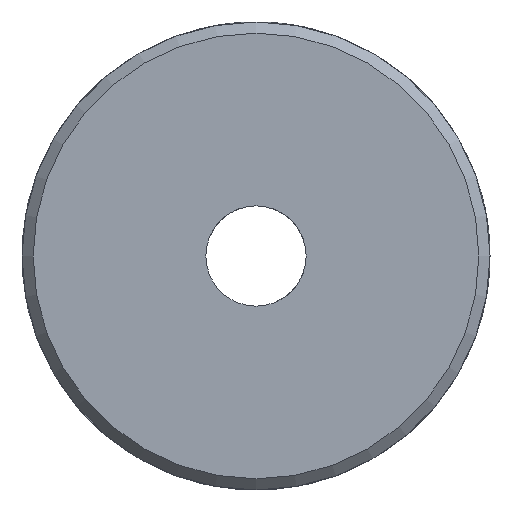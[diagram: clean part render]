
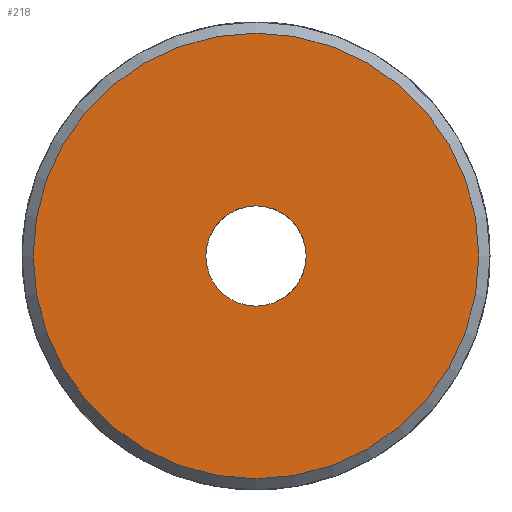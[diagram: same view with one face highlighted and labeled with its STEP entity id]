
A CAD part, left-side view. The second image highlights one B-rep face of the part: STEP entity #218.
In plain terms, the highlighted planar face has unit normal (-1, 0, 0).
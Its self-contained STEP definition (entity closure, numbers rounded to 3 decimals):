
#218 = ADVANCED_FACE( '', ( #568, #569 ), #570, .T. );
#568 = FACE_OUTER_BOUND( '', #1089, .T. );
#569 = FACE_BOUND( '', #1090, .T. );
#570 = PLANE( '', #1091 );
#1089 = EDGE_LOOP( '', ( #1824 ) );
#1090 = EDGE_LOOP( '', ( #1825 ) );
#1091 = AXIS2_PLACEMENT_3D( '', #1826, #1827, #1828 );
#1824 = ORIENTED_EDGE( '', *, *, #3069, .T. );
#1825 = ORIENTED_EDGE( '', *, *, #3070, .F. );
#1826 = CARTESIAN_POINT( '', ( -11., -1.5, 0. ) );
#1827 = DIRECTION( '', ( -1., 0., 0. ) );
#1828 = DIRECTION( '', ( 0., -1., 0. ) );
#3069 = EDGE_CURVE( '', #3658, #3658, #3659, .T. );
#3070 = EDGE_CURVE( '', #3660, #3660, #3661, .T. );
#3658 = VERTEX_POINT( '', #4497 );
#3659 = CIRCLE( '', #4498, 6.667 );
#3660 = VERTEX_POINT( '', #4499 );
#3661 = CIRCLE( '', #4500, 1.5 );
#4497 = CARTESIAN_POINT( '', ( -11., -6.667, 0. ) );
#4498 = AXIS2_PLACEMENT_3D( '', #5659, #5660, #5661 );
#4499 = CARTESIAN_POINT( '', ( -11., -1.5, 0. ) );
#4500 = AXIS2_PLACEMENT_3D( '', #5662, #5663, #5664 );
#5659 = CARTESIAN_POINT( '', ( -11., 0., 0. ) );
#5660 = DIRECTION( '', ( -1., 0., 0. ) );
#5661 = DIRECTION( '', ( 0., -1., 0. ) );
#5662 = CARTESIAN_POINT( '', ( -11., 0., 0. ) );
#5663 = DIRECTION( '', ( -1., 0., 0. ) );
#5664 = DIRECTION( '', ( 0., -1., 0. ) );
